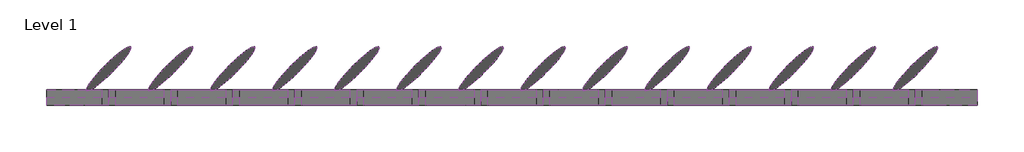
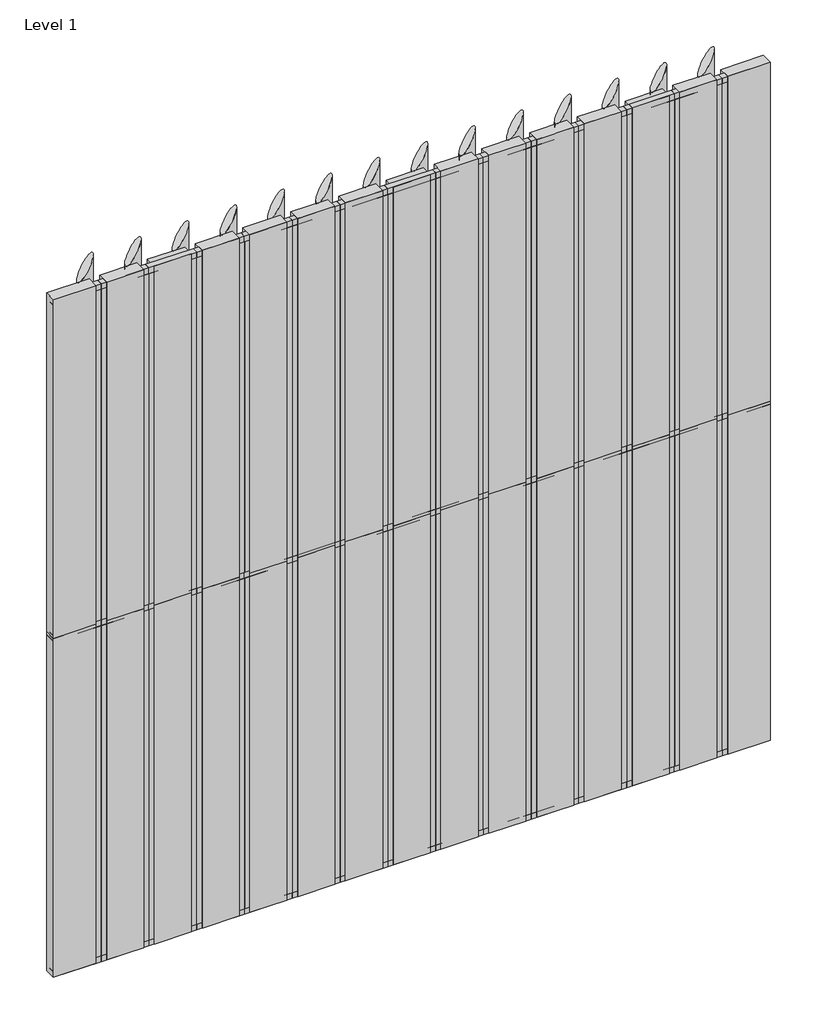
# One storey: 73 members, 60 plates.
"""IFC4 building model written with IfcOpenShell, lengths in millimetres."""

from ifc_helpers import new_model, si_unit, origin, place, context, project, spatial, transform, mapped, element, save
from components import rectangular_mullion_d3fee28a, rectangular_mullion_05cc9e47, rectangular_mullion_4a4034a1, rectangular_mullion_3c6e38bc, empty_system_panel_empty_f23573c3, empty_system_panel_empty_c4966de9, empty_system_panel_empty_361e841d

model = new_model("IFC4")

# Units and contexts
model_context = context("Model", 3, world=origin())
ifc_project = project(units=[si_unit("LENGTHUNIT", "METRE", prefix="MILLI")], contexts=[model_context])

# Site, building, storey
site = spatial("IfcSite", under=ifc_project)
building = spatial("IfcBuilding", under=site)
storey = spatial("IfcBuildingStorey", under=building, Name="Level 1", Elevation=0.0)

# Members
placement = place(None, origin())
rectangular_mullion_shape = rectangular_mullion_d3fee28a(model_context)
element("IfcMember", 1, ObjectType="Rectangular Mullion : RSen_21_CWM_blade - 400 ellips - 45°_gen_duco projects", at=placement, inside=storey, context=model_context, shape_type="MappedRepresentation", body=[
    mapped(rectangular_mullion_shape, transform((5600.0, 3000.0, 0.0), x_axis=(-1.0, 0.0, 0.0), y_axis=(0.0, 1.0, 0.0), z_axis=(0.0, 0.0, -1.0))),
])
element("IfcMember", 2, ObjectType="Rectangular Mullion : RSen_21_CWM_blade - 400 ellips - 45°_gen_duco projects", at=placement, inside=storey, context=model_context, shape_type="MappedRepresentation", body=[
    mapped(rectangular_mullion_shape, transform((5200.0, 3000.0, 0.0), x_axis=(-1.0, 0.0, 0.0), y_axis=(0.0, 1.0, 0.0), z_axis=(0.0, 0.0, -1.0))),
])
element("IfcMember", 3, ObjectType="Rectangular Mullion : RSen_21_CWM_blade - 400 ellips - 45°_gen_duco projects", at=placement, inside=storey, context=model_context, shape_type="MappedRepresentation", body=[
    mapped(rectangular_mullion_shape, transform((4800.0, 3000.0, 0.0), x_axis=(-1.0, 0.0, 0.0), y_axis=(0.0, 1.0, 0.0), z_axis=(0.0, 0.0, -1.0))),
])
element("IfcMember", 4, ObjectType="Rectangular Mullion : RSen_21_CWM_blade - 400 ellips - 45°_gen_duco projects", at=placement, inside=storey, context=model_context, shape_type="MappedRepresentation", body=[
    mapped(rectangular_mullion_shape, transform((4400.0, 3000.0, 0.0), x_axis=(-1.0, 0.0, 0.0), y_axis=(0.0, 1.0, 0.0), z_axis=(0.0, 0.0, -1.0))),
])
element("IfcMember", 5, ObjectType="Rectangular Mullion : RSen_21_CWM_blade - 400 ellips - 45°_gen_duco projects", at=placement, inside=storey, context=model_context, shape_type="MappedRepresentation", body=[
    mapped(rectangular_mullion_shape, transform((4000.0, 3000.0, 0.0), x_axis=(-1.0, 0.0, 0.0), y_axis=(0.0, 1.0, 0.0), z_axis=(0.0, 0.0, -1.0))),
])
element("IfcMember", 6, ObjectType="Rectangular Mullion : RSen_21_CWM_blade - 400 ellips - 45°_gen_duco projects", at=placement, inside=storey, context=model_context, shape_type="MappedRepresentation", body=[
    mapped(rectangular_mullion_shape, transform((3600.0, 3000.0, 0.0), x_axis=(-1.0, 0.0, 0.0), y_axis=(0.0, 1.0, 0.0), z_axis=(0.0, 0.0, -1.0))),
])
element("IfcMember", 7, ObjectType="Rectangular Mullion : RSen_21_CWM_blade - 400 ellips - 45°_gen_duco projects", at=placement, inside=storey, context=model_context, shape_type="MappedRepresentation", body=[
    mapped(rectangular_mullion_shape, transform((3200.0, 3000.0, 0.0), x_axis=(-1.0, 0.0, 0.0), y_axis=(0.0, 1.0, 0.0), z_axis=(0.0, 0.0, -1.0))),
])
element("IfcMember", 8, ObjectType="Rectangular Mullion : RSen_21_CWM_blade - 400 ellips - 45°_gen_duco projects", at=placement, inside=storey, context=model_context, shape_type="MappedRepresentation", body=[
    mapped(rectangular_mullion_shape, transform((2800.0, 3000.0, 0.0), x_axis=(-1.0, 0.0, 0.0), y_axis=(0.0, 1.0, 0.0), z_axis=(0.0, 0.0, -1.0))),
])
element("IfcMember", 9, ObjectType="Rectangular Mullion : RSen_21_CWM_blade - 400 ellips - 45°_gen_duco projects", at=placement, inside=storey, context=model_context, shape_type="MappedRepresentation", body=[
    mapped(rectangular_mullion_shape, transform((2400.0, 3000.0, 0.0), x_axis=(-1.0, 0.0, 0.0), y_axis=(0.0, 1.0, 0.0), z_axis=(0.0, 0.0, -1.0))),
])
element("IfcMember", 10, ObjectType="Rectangular Mullion : RSen_21_CWM_blade - 400 ellips - 45°_gen_duco projects", at=placement, inside=storey, context=model_context, shape_type="MappedRepresentation", body=[
    mapped(rectangular_mullion_shape, transform((2000.0, 3000.0, 0.0), x_axis=(-1.0, 0.0, 0.0), y_axis=(0.0, 1.0, 0.0), z_axis=(0.0, 0.0, -1.0))),
])
element("IfcMember", 11, ObjectType="Rectangular Mullion : RSen_21_CWM_blade - 400 ellips - 45°_gen_duco projects", at=placement, inside=storey, context=model_context, shape_type="MappedRepresentation", body=[
    mapped(rectangular_mullion_shape, transform((1600.0, 3000.0, 0.0), x_axis=(-1.0, 0.0, 0.0), y_axis=(0.0, 1.0, 0.0), z_axis=(0.0, 0.0, -1.0))),
])
element("IfcMember", 12, ObjectType="Rectangular Mullion : RSen_21_CWM_blade - 400 ellips - 45°_gen_duco projects", at=placement, inside=storey, context=model_context, shape_type="MappedRepresentation", body=[
    mapped(rectangular_mullion_shape, transform((1200.0, 3000.0, 0.0), x_axis=(-1.0, 0.0, 0.0), y_axis=(0.0, 1.0, 0.0), z_axis=(0.0, 0.0, -1.0))),
])
element("IfcMember", 13, ObjectType="Rectangular Mullion : RSen_21_CWM_blade - 400 ellips - 45°_gen_duco projects", at=placement, inside=storey, context=model_context, shape_type="MappedRepresentation", body=[
    mapped(rectangular_mullion_shape, transform((800.0, 3000.0, 0.0), x_axis=(-1.0, 0.0, 0.0), y_axis=(0.0, 1.0, 0.0), z_axis=(0.0, 0.0, -1.0))),
])
element("IfcMember", 14, ObjectType="Rectangular Mullion : RSen_21_CWM_blade - 400 ellips - 45°_gen_duco projects", at=placement, inside=storey, context=model_context, shape_type="MappedRepresentation", body=[
    mapped(rectangular_mullion_shape, transform((400.0, 3000.0, 0.0), x_axis=(-1.0, 0.0, 0.0), y_axis=(0.0, 1.0, 0.0), z_axis=(0.0, 0.0, -1.0))),
])
element("IfcMember", 15, ObjectType="Rectangular Mullion : RSen_21_CWM_blade - 400 ellips - 45°_gen_duco projects", at=placement, inside=storey, context=model_context, shape_type="MappedRepresentation", body=[
    mapped(rectangular_mullion_shape, transform((5600.0, 3000.0, 3000.0), x_axis=(-1.0, 0.0, 0.0), y_axis=(0.0, 1.0, 0.0), z_axis=(0.0, 0.0, -1.0))),
])
element("IfcMember", 16, ObjectType="Rectangular Mullion : RSen_21_CWM_blade - 400 ellips - 45°_gen_duco projects", at=placement, inside=storey, context=model_context, shape_type="MappedRepresentation", body=[
    mapped(rectangular_mullion_shape, transform((5200.0, 3000.0, 3000.0), x_axis=(-1.0, 0.0, 0.0), y_axis=(0.0, 1.0, 0.0), z_axis=(0.0, 0.0, -1.0))),
])
element("IfcMember", 17, ObjectType="Rectangular Mullion : RSen_21_CWM_blade - 400 ellips - 45°_gen_duco projects", at=placement, inside=storey, context=model_context, shape_type="MappedRepresentation", body=[
    mapped(rectangular_mullion_shape, transform((4800.0, 3000.0, 3000.0), x_axis=(-1.0, 0.0, 0.0), y_axis=(0.0, 1.0, 0.0), z_axis=(0.0, 0.0, -1.0))),
])
element("IfcMember", 18, ObjectType="Rectangular Mullion : RSen_21_CWM_blade - 400 ellips - 45°_gen_duco projects", at=placement, inside=storey, context=model_context, shape_type="MappedRepresentation", body=[
    mapped(rectangular_mullion_shape, transform((4400.0, 3000.0, 3000.0), x_axis=(-1.0, 0.0, 0.0), y_axis=(0.0, 1.0, 0.0), z_axis=(0.0, 0.0, -1.0))),
])
element("IfcMember", 19, ObjectType="Rectangular Mullion : RSen_21_CWM_blade - 400 ellips - 45°_gen_duco projects", at=placement, inside=storey, context=model_context, shape_type="MappedRepresentation", body=[
    mapped(rectangular_mullion_shape, transform((4000.0, 3000.0, 3000.0), x_axis=(-1.0, 0.0, 0.0), y_axis=(0.0, 1.0, 0.0), z_axis=(0.0, 0.0, -1.0))),
])
element("IfcMember", 20, ObjectType="Rectangular Mullion : RSen_21_CWM_blade - 400 ellips - 45°_gen_duco projects", at=placement, inside=storey, context=model_context, shape_type="MappedRepresentation", body=[
    mapped(rectangular_mullion_shape, transform((3600.0, 3000.0, 3000.0), x_axis=(-1.0, 0.0, 0.0), y_axis=(0.0, 1.0, 0.0), z_axis=(0.0, 0.0, -1.0))),
])
element("IfcMember", 21, ObjectType="Rectangular Mullion : RSen_21_CWM_blade - 400 ellips - 45°_gen_duco projects", at=placement, inside=storey, context=model_context, shape_type="MappedRepresentation", body=[
    mapped(rectangular_mullion_shape, transform((3200.0, 3000.0, 3000.0), x_axis=(-1.0, 0.0, 0.0), y_axis=(0.0, 1.0, 0.0), z_axis=(0.0, 0.0, -1.0))),
])
element("IfcMember", 22, ObjectType="Rectangular Mullion : RSen_21_CWM_blade - 400 ellips - 45°_gen_duco projects", at=placement, inside=storey, context=model_context, shape_type="MappedRepresentation", body=[
    mapped(rectangular_mullion_shape, transform((2800.0, 3000.0, 3000.0), x_axis=(-1.0, 0.0, 0.0), y_axis=(0.0, 1.0, 0.0), z_axis=(0.0, 0.0, -1.0))),
])
element("IfcMember", 23, ObjectType="Rectangular Mullion : RSen_21_CWM_blade - 400 ellips - 45°_gen_duco projects", at=placement, inside=storey, context=model_context, shape_type="MappedRepresentation", body=[
    mapped(rectangular_mullion_shape, transform((2400.0, 3000.0, 3000.0), x_axis=(-1.0, 0.0, 0.0), y_axis=(0.0, 1.0, 0.0), z_axis=(0.0, 0.0, -1.0))),
])
element("IfcMember", 24, ObjectType="Rectangular Mullion : RSen_21_CWM_blade - 400 ellips - 45°_gen_duco projects", at=placement, inside=storey, context=model_context, shape_type="MappedRepresentation", body=[
    mapped(rectangular_mullion_shape, transform((2000.0, 3000.0, 3000.0), x_axis=(-1.0, 0.0, 0.0), y_axis=(0.0, 1.0, 0.0), z_axis=(0.0, 0.0, -1.0))),
])
element("IfcMember", 25, ObjectType="Rectangular Mullion : RSen_21_CWM_blade - 400 ellips - 45°_gen_duco projects", at=placement, inside=storey, context=model_context, shape_type="MappedRepresentation", body=[
    mapped(rectangular_mullion_shape, transform((1600.0, 3000.0, 3000.0), x_axis=(-1.0, 0.0, 0.0), y_axis=(0.0, 1.0, 0.0), z_axis=(0.0, 0.0, -1.0))),
])
element("IfcMember", 26, ObjectType="Rectangular Mullion : RSen_21_CWM_blade - 400 ellips - 45°_gen_duco projects", at=placement, inside=storey, context=model_context, shape_type="MappedRepresentation", body=[
    mapped(rectangular_mullion_shape, transform((1200.0, 3000.0, 3000.0), x_axis=(-1.0, 0.0, 0.0), y_axis=(0.0, 1.0, 0.0), z_axis=(0.0, 0.0, -1.0))),
])
element("IfcMember", 27, ObjectType="Rectangular Mullion : RSen_21_CWM_blade - 400 ellips - 45°_gen_duco projects", at=placement, inside=storey, context=model_context, shape_type="MappedRepresentation", body=[
    mapped(rectangular_mullion_shape, transform((800.0, 3000.0, 3000.0), x_axis=(-1.0, 0.0, 0.0), y_axis=(0.0, 1.0, 0.0), z_axis=(0.0, 0.0, -1.0))),
])
element("IfcMember", 28, ObjectType="Rectangular Mullion : RSen_21_CWM_blade - 400 ellips - 45°_gen_duco projects", at=placement, inside=storey, context=model_context, shape_type="MappedRepresentation", body=[
    mapped(rectangular_mullion_shape, transform((400.0, 3000.0, 3000.0), x_axis=(-1.0, 0.0, 0.0), y_axis=(0.0, 1.0, 0.0), z_axis=(0.0, 0.0, -1.0))),
])
rectangular_mullion_2_shape = rectangular_mullion_05cc9e47(model_context)
element("IfcMember", 29, ObjectType="Rectangular Mullion : RSen_21_CWM_support profile 50x50 - left_gen_duco projects", at=placement, inside=storey, context=model_context, shape_type="MappedRepresentation", body=[
    mapped(rectangular_mullion_2_shape, transform((0.0, 3000.0, 6000.0), x_axis=(0.0, 0.0, 1.0), y_axis=(0.0, 1.0, 0.0), z_axis=(-1.0, 0.0, 0.0))),
])
rectangular_mullion_3_shape = rectangular_mullion_4a4034a1(model_context)
element("IfcMember", 30, ObjectType="Rectangular Mullion : RSen_21_CWM_support profile 50x50 - right_gen_duco projects", at=placement, inside=storey, context=model_context, shape_type="MappedRepresentation", body=[
    mapped(rectangular_mullion_3_shape, transform((6000.0, 3000.0, 0.0), x_axis=(0.0, 0.0, -1.0), y_axis=(0.0, 1.0, 0.0), z_axis=(1.0, 0.0, 0.0))),
])
element("IfcMember", 31, ObjectType="Rectangular Mullion : RSen_21_CWM_support profile 50x50 - left_gen_duco projects", at=placement, inside=storey, context=model_context, shape_type="MappedRepresentation", body=[
    mapped(rectangular_mullion_2_shape, transform((5600.0, 3000.0, 6000.0), x_axis=(0.0, 0.0, 1.0), y_axis=(0.0, 1.0, 0.0), z_axis=(-1.0, 0.0, 0.0))),
])
element("IfcMember", 32, ObjectType="Rectangular Mullion : RSen_21_CWM_support profile 50x50 - left_gen_duco projects", at=placement, inside=storey, context=model_context, shape_type="MappedRepresentation", body=[
    mapped(rectangular_mullion_2_shape, transform((5200.0, 3000.0, 6000.0), x_axis=(0.0, 0.0, 1.0), y_axis=(0.0, 1.0, 0.0), z_axis=(-1.0, 0.0, 0.0))),
])
element("IfcMember", 33, ObjectType="Rectangular Mullion : RSen_21_CWM_support profile 50x50 - left_gen_duco projects", at=placement, inside=storey, context=model_context, shape_type="MappedRepresentation", body=[
    mapped(rectangular_mullion_2_shape, transform((4800.0, 3000.0, 6000.0), x_axis=(0.0, 0.0, 1.0), y_axis=(0.0, 1.0, 0.0), z_axis=(-1.0, 0.0, 0.0))),
])
element("IfcMember", 34, ObjectType="Rectangular Mullion : RSen_21_CWM_support profile 50x50 - left_gen_duco projects", at=placement, inside=storey, context=model_context, shape_type="MappedRepresentation", body=[
    mapped(rectangular_mullion_2_shape, transform((4400.0, 3000.0, 6000.0), x_axis=(0.0, 0.0, 1.0), y_axis=(0.0, 1.0, 0.0), z_axis=(-1.0, 0.0, 0.0))),
])
element("IfcMember", 35, ObjectType="Rectangular Mullion : RSen_21_CWM_support profile 50x50 - left_gen_duco projects", at=placement, inside=storey, context=model_context, shape_type="MappedRepresentation", body=[
    mapped(rectangular_mullion_2_shape, transform((4000.0, 3000.0, 6000.0), x_axis=(0.0, 0.0, 1.0), y_axis=(0.0, 1.0, 0.0), z_axis=(-1.0, 0.0, 0.0))),
])
element("IfcMember", 36, ObjectType="Rectangular Mullion : RSen_21_CWM_support profile 50x50 - left_gen_duco projects", at=placement, inside=storey, context=model_context, shape_type="MappedRepresentation", body=[
    mapped(rectangular_mullion_2_shape, transform((3600.0, 3000.0, 6000.0), x_axis=(0.0, 0.0, 1.0), y_axis=(0.0, 1.0, 0.0), z_axis=(-1.0, 0.0, 0.0))),
])
element("IfcMember", 37, ObjectType="Rectangular Mullion : RSen_21_CWM_support profile 50x50 - left_gen_duco projects", at=placement, inside=storey, context=model_context, shape_type="MappedRepresentation", body=[
    mapped(rectangular_mullion_2_shape, transform((3200.0, 3000.0, 6000.0), x_axis=(0.0, 0.0, 1.0), y_axis=(0.0, 1.0, 0.0), z_axis=(-1.0, 0.0, 0.0))),
])
element("IfcMember", 38, ObjectType="Rectangular Mullion : RSen_21_CWM_support profile 50x50 - left_gen_duco projects", at=placement, inside=storey, context=model_context, shape_type="MappedRepresentation", body=[
    mapped(rectangular_mullion_2_shape, transform((2800.0, 3000.0, 6000.0), x_axis=(0.0, 0.0, 1.0), y_axis=(0.0, 1.0, 0.0), z_axis=(-1.0, 0.0, 0.0))),
])
element("IfcMember", 39, ObjectType="Rectangular Mullion : RSen_21_CWM_support profile 50x50 - left_gen_duco projects", at=placement, inside=storey, context=model_context, shape_type="MappedRepresentation", body=[
    mapped(rectangular_mullion_2_shape, transform((2400.0, 3000.0, 6000.0), x_axis=(0.0, 0.0, 1.0), y_axis=(0.0, 1.0, 0.0), z_axis=(-1.0, 0.0, 0.0))),
])
element("IfcMember", 40, ObjectType="Rectangular Mullion : RSen_21_CWM_support profile 50x50 - left_gen_duco projects", at=placement, inside=storey, context=model_context, shape_type="MappedRepresentation", body=[
    mapped(rectangular_mullion_2_shape, transform((2000.0, 3000.0, 6000.0), x_axis=(0.0, 0.0, 1.0), y_axis=(0.0, 1.0, 0.0), z_axis=(-1.0, 0.0, 0.0))),
])
element("IfcMember", 41, ObjectType="Rectangular Mullion : RSen_21_CWM_support profile 50x50 - left_gen_duco projects", at=placement, inside=storey, context=model_context, shape_type="MappedRepresentation", body=[
    mapped(rectangular_mullion_2_shape, transform((1600.0, 3000.0, 6000.0), x_axis=(0.0, 0.0, 1.0), y_axis=(0.0, 1.0, 0.0), z_axis=(-1.0, 0.0, 0.0))),
])
element("IfcMember", 42, ObjectType="Rectangular Mullion : RSen_21_CWM_support profile 50x50 - left_gen_duco projects", at=placement, inside=storey, context=model_context, shape_type="MappedRepresentation", body=[
    mapped(rectangular_mullion_2_shape, transform((1200.0, 3000.0, 6000.0), x_axis=(0.0, 0.0, 1.0), y_axis=(0.0, 1.0, 0.0), z_axis=(-1.0, 0.0, 0.0))),
])
element("IfcMember", 43, ObjectType="Rectangular Mullion : RSen_21_CWM_support profile 50x50 - left_gen_duco projects", at=placement, inside=storey, context=model_context, shape_type="MappedRepresentation", body=[
    mapped(rectangular_mullion_2_shape, transform((800.0, 3000.0, 6000.0), x_axis=(0.0, 0.0, 1.0), y_axis=(0.0, 1.0, 0.0), z_axis=(-1.0, 0.0, 0.0))),
])
element("IfcMember", 44, ObjectType="Rectangular Mullion : RSen_21_CWM_support profile 50x50 - left_gen_duco projects", at=placement, inside=storey, context=model_context, shape_type="MappedRepresentation", body=[
    mapped(rectangular_mullion_2_shape, transform((400.0, 3000.0, 6000.0), x_axis=(0.0, 0.0, 1.0), y_axis=(0.0, 1.0, 0.0), z_axis=(-1.0, 0.0, 0.0))),
])
element("IfcMember", 45, ObjectType="Rectangular Mullion : RSen_21_CWM_support profile 50x50 - right_gen_duco projects", at=placement, inside=storey, context=model_context, shape_type="MappedRepresentation", body=[
    mapped(rectangular_mullion_3_shape, transform((5600.0, 3000.0, 0.0), x_axis=(0.0, 0.0, -1.0), y_axis=(0.0, 1.0, 0.0), z_axis=(1.0, 0.0, 0.0))),
])
element("IfcMember", 46, ObjectType="Rectangular Mullion : RSen_21_CWM_support profile 50x50 - right_gen_duco projects", at=placement, inside=storey, context=model_context, shape_type="MappedRepresentation", body=[
    mapped(rectangular_mullion_3_shape, transform((5200.0, 3000.0, 0.0), x_axis=(0.0, 0.0, -1.0), y_axis=(0.0, 1.0, 0.0), z_axis=(1.0, 0.0, 0.0))),
])
element("IfcMember", 47, ObjectType="Rectangular Mullion : RSen_21_CWM_support profile 50x50 - right_gen_duco projects", at=placement, inside=storey, context=model_context, shape_type="MappedRepresentation", body=[
    mapped(rectangular_mullion_3_shape, transform((4800.0, 3000.0, 0.0), x_axis=(0.0, 0.0, -1.0), y_axis=(0.0, 1.0, 0.0), z_axis=(1.0, 0.0, 0.0))),
])
element("IfcMember", 48, ObjectType="Rectangular Mullion : RSen_21_CWM_support profile 50x50 - right_gen_duco projects", at=placement, inside=storey, context=model_context, shape_type="MappedRepresentation", body=[
    mapped(rectangular_mullion_3_shape, transform((4400.0, 3000.0, 0.0), x_axis=(0.0, 0.0, -1.0), y_axis=(0.0, 1.0, 0.0), z_axis=(1.0, 0.0, 0.0))),
])
element("IfcMember", 49, ObjectType="Rectangular Mullion : RSen_21_CWM_support profile 50x50 - right_gen_duco projects", at=placement, inside=storey, context=model_context, shape_type="MappedRepresentation", body=[
    mapped(rectangular_mullion_3_shape, transform((4000.0, 3000.0, 0.0), x_axis=(0.0, 0.0, -1.0), y_axis=(0.0, 1.0, 0.0), z_axis=(1.0, 0.0, 0.0))),
])
element("IfcMember", 50, ObjectType="Rectangular Mullion : RSen_21_CWM_support profile 50x50 - right_gen_duco projects", at=placement, inside=storey, context=model_context, shape_type="MappedRepresentation", body=[
    mapped(rectangular_mullion_3_shape, transform((3600.0, 3000.0, 0.0), x_axis=(0.0, 0.0, -1.0), y_axis=(0.0, 1.0, 0.0), z_axis=(1.0, 0.0, 0.0))),
])
element("IfcMember", 51, ObjectType="Rectangular Mullion : RSen_21_CWM_support profile 50x50 - right_gen_duco projects", at=placement, inside=storey, context=model_context, shape_type="MappedRepresentation", body=[
    mapped(rectangular_mullion_3_shape, transform((3200.0, 3000.0, 0.0), x_axis=(0.0, 0.0, -1.0), y_axis=(0.0, 1.0, 0.0), z_axis=(1.0, 0.0, 0.0))),
])
element("IfcMember", 52, ObjectType="Rectangular Mullion : RSen_21_CWM_support profile 50x50 - right_gen_duco projects", at=placement, inside=storey, context=model_context, shape_type="MappedRepresentation", body=[
    mapped(rectangular_mullion_3_shape, transform((2800.0, 3000.0, 0.0), x_axis=(0.0, 0.0, -1.0), y_axis=(0.0, 1.0, 0.0), z_axis=(1.0, 0.0, 0.0))),
])
element("IfcMember", 53, ObjectType="Rectangular Mullion : RSen_21_CWM_support profile 50x50 - right_gen_duco projects", at=placement, inside=storey, context=model_context, shape_type="MappedRepresentation", body=[
    mapped(rectangular_mullion_3_shape, transform((2400.0, 3000.0, 0.0), x_axis=(0.0, 0.0, -1.0), y_axis=(0.0, 1.0, 0.0), z_axis=(1.0, 0.0, 0.0))),
])
element("IfcMember", 54, ObjectType="Rectangular Mullion : RSen_21_CWM_support profile 50x50 - right_gen_duco projects", at=placement, inside=storey, context=model_context, shape_type="MappedRepresentation", body=[
    mapped(rectangular_mullion_3_shape, transform((2000.0, 3000.0, 0.0), x_axis=(0.0, 0.0, -1.0), y_axis=(0.0, 1.0, 0.0), z_axis=(1.0, 0.0, 0.0))),
])
element("IfcMember", 55, ObjectType="Rectangular Mullion : RSen_21_CWM_support profile 50x50 - right_gen_duco projects", at=placement, inside=storey, context=model_context, shape_type="MappedRepresentation", body=[
    mapped(rectangular_mullion_3_shape, transform((1600.0, 3000.0, 0.0), x_axis=(0.0, 0.0, -1.0), y_axis=(0.0, 1.0, 0.0), z_axis=(1.0, 0.0, 0.0))),
])
element("IfcMember", 56, ObjectType="Rectangular Mullion : RSen_21_CWM_support profile 50x50 - right_gen_duco projects", at=placement, inside=storey, context=model_context, shape_type="MappedRepresentation", body=[
    mapped(rectangular_mullion_3_shape, transform((1200.0, 3000.0, 0.0), x_axis=(0.0, 0.0, -1.0), y_axis=(0.0, 1.0, 0.0), z_axis=(1.0, 0.0, 0.0))),
])
element("IfcMember", 57, ObjectType="Rectangular Mullion : RSen_21_CWM_support profile 50x50 - right_gen_duco projects", at=placement, inside=storey, context=model_context, shape_type="MappedRepresentation", body=[
    mapped(rectangular_mullion_3_shape, transform((800.0, 3000.0, 0.0), x_axis=(0.0, 0.0, -1.0), y_axis=(0.0, 1.0, 0.0), z_axis=(1.0, 0.0, 0.0))),
])
element("IfcMember", 58, ObjectType="Rectangular Mullion : RSen_21_CWM_support profile 50x50 - right_gen_duco projects", at=placement, inside=storey, context=model_context, shape_type="MappedRepresentation", body=[
    mapped(rectangular_mullion_3_shape, transform((400.0, 3000.0, 0.0), x_axis=(0.0, 0.0, -1.0), y_axis=(0.0, 1.0, 0.0), z_axis=(1.0, 0.0, 0.0))),
])
rectangular_mullion_4_shape = rectangular_mullion_3c6e38bc(model_context)
element("IfcMember", 59, ObjectType="Rectangular Mullion : RSen_21_CWM_support profile 50x50_gen_duco projects", at=placement, inside=storey, context=model_context, shape_type="MappedRepresentation", body=[
    mapped(rectangular_mullion_4_shape, transform((5600.0, 3000.0, 3000.0), x_axis=(0.0, 0.0, 1.0), y_axis=(0.0, 1.0, 0.0), z_axis=(-1.0, 0.0, 0.0))),
])
element("IfcMember", 60, ObjectType="Rectangular Mullion : RSen_21_CWM_support profile 50x50_gen_duco projects", at=placement, inside=storey, context=model_context, shape_type="MappedRepresentation", body=[
    mapped(rectangular_mullion_4_shape, transform((5200.0, 3000.0, 3000.0), x_axis=(0.0, 0.0, 1.0), y_axis=(0.0, 1.0, 0.0), z_axis=(-1.0, 0.0, 0.0))),
])
element("IfcMember", 61, ObjectType="Rectangular Mullion : RSen_21_CWM_support profile 50x50_gen_duco projects", at=placement, inside=storey, context=model_context, shape_type="MappedRepresentation", body=[
    mapped(rectangular_mullion_4_shape, transform((4800.0, 3000.0, 3000.0), x_axis=(0.0, 0.0, 1.0), y_axis=(0.0, 1.0, 0.0), z_axis=(-1.0, 0.0, 0.0))),
])
element("IfcMember", 62, ObjectType="Rectangular Mullion : RSen_21_CWM_support profile 50x50_gen_duco projects", at=placement, inside=storey, context=model_context, shape_type="MappedRepresentation", body=[
    mapped(rectangular_mullion_4_shape, transform((4400.0, 3000.0, 3000.0), x_axis=(0.0, 0.0, 1.0), y_axis=(0.0, 1.0, 0.0), z_axis=(-1.0, 0.0, 0.0))),
])
element("IfcMember", 63, ObjectType="Rectangular Mullion : RSen_21_CWM_support profile 50x50_gen_duco projects", at=placement, inside=storey, context=model_context, shape_type="MappedRepresentation", body=[
    mapped(rectangular_mullion_4_shape, transform((4000.0, 3000.0, 3000.0), x_axis=(0.0, 0.0, 1.0), y_axis=(0.0, 1.0, 0.0), z_axis=(-1.0, 0.0, 0.0))),
])
element("IfcMember", 64, ObjectType="Rectangular Mullion : RSen_21_CWM_support profile 50x50_gen_duco projects", at=placement, inside=storey, context=model_context, shape_type="MappedRepresentation", body=[
    mapped(rectangular_mullion_4_shape, transform((3600.0, 3000.0, 3000.0), x_axis=(0.0, 0.0, 1.0), y_axis=(0.0, 1.0, 0.0), z_axis=(-1.0, 0.0, 0.0))),
])
element("IfcMember", 65, ObjectType="Rectangular Mullion : RSen_21_CWM_support profile 50x50_gen_duco projects", at=placement, inside=storey, context=model_context, shape_type="MappedRepresentation", body=[
    mapped(rectangular_mullion_4_shape, transform((3200.0, 3000.0, 3000.0), x_axis=(0.0, 0.0, 1.0), y_axis=(0.0, 1.0, 0.0), z_axis=(-1.0, 0.0, 0.0))),
])
element("IfcMember", 66, ObjectType="Rectangular Mullion : RSen_21_CWM_support profile 50x50_gen_duco projects", at=placement, inside=storey, context=model_context, shape_type="MappedRepresentation", body=[
    mapped(rectangular_mullion_4_shape, transform((2800.0, 3000.0, 3000.0), x_axis=(0.0, 0.0, 1.0), y_axis=(0.0, 1.0, 0.0), z_axis=(-1.0, 0.0, 0.0))),
])
element("IfcMember", 67, ObjectType="Rectangular Mullion : RSen_21_CWM_support profile 50x50_gen_duco projects", at=placement, inside=storey, context=model_context, shape_type="MappedRepresentation", body=[
    mapped(rectangular_mullion_4_shape, transform((2400.0, 3000.0, 3000.0), x_axis=(0.0, 0.0, 1.0), y_axis=(0.0, 1.0, 0.0), z_axis=(-1.0, 0.0, 0.0))),
])
element("IfcMember", 68, ObjectType="Rectangular Mullion : RSen_21_CWM_support profile 50x50_gen_duco projects", at=placement, inside=storey, context=model_context, shape_type="MappedRepresentation", body=[
    mapped(rectangular_mullion_4_shape, transform((2000.0, 3000.0, 3000.0), x_axis=(0.0, 0.0, 1.0), y_axis=(0.0, 1.0, 0.0), z_axis=(-1.0, 0.0, 0.0))),
])
element("IfcMember", 69, ObjectType="Rectangular Mullion : RSen_21_CWM_support profile 50x50_gen_duco projects", at=placement, inside=storey, context=model_context, shape_type="MappedRepresentation", body=[
    mapped(rectangular_mullion_4_shape, transform((1600.0, 3000.0, 3000.0), x_axis=(0.0, 0.0, 1.0), y_axis=(0.0, 1.0, 0.0), z_axis=(-1.0, 0.0, 0.0))),
])
element("IfcMember", 70, ObjectType="Rectangular Mullion : RSen_21_CWM_support profile 50x50_gen_duco projects", at=placement, inside=storey, context=model_context, shape_type="MappedRepresentation", body=[
    mapped(rectangular_mullion_4_shape, transform((1200.0, 3000.0, 3000.0), x_axis=(0.0, 0.0, 1.0), y_axis=(0.0, 1.0, 0.0), z_axis=(-1.0, 0.0, 0.0))),
])
element("IfcMember", 71, ObjectType="Rectangular Mullion : RSen_21_CWM_support profile 50x50_gen_duco projects", at=placement, inside=storey, context=model_context, shape_type="MappedRepresentation", body=[
    mapped(rectangular_mullion_4_shape, transform((800.0, 3000.0, 3000.0), x_axis=(0.0, 0.0, 1.0), y_axis=(0.0, 1.0, 0.0), z_axis=(-1.0, 0.0, 0.0))),
])
element("IfcMember", 72, ObjectType="Rectangular Mullion : RSen_21_CWM_support profile 50x50_gen_duco projects", at=placement, inside=storey, context=model_context, shape_type="MappedRepresentation", body=[
    mapped(rectangular_mullion_4_shape, transform((400.0, 3000.0, 3000.0), x_axis=(0.0, 0.0, 1.0), y_axis=(0.0, 1.0, 0.0), z_axis=(-1.0, 0.0, 0.0))),
])
element("IfcMember", 73, ObjectType="Rectangular Mullion : RSen_21_CWM_support profile 50x50_gen_duco projects", at=placement, inside=storey, context=model_context, shape_type="MappedRepresentation", body=[
    mapped(rectangular_mullion_4_shape, transform((0.0, 3000.0, 3000.0), x_axis=(0.0, 0.0, 1.0), y_axis=(0.0, 1.0, 0.0), z_axis=(-1.0, 0.0, 0.0))),
])

# Plates
empty_system_panel_empty_shape = empty_system_panel_empty_f23573c3(model_context)
element("IfcPlate", 74, ObjectType="Empty System Panel : Empty", at=placement, inside=storey, context=model_context, shape_type="MappedRepresentation", body=[
    mapped(empty_system_panel_empty_shape, transform((5822.2738636, 3000.0, 0.0), x_axis=(-1.0, 0.0, 0.0), y_axis=(0.0, -1.0, 0.0), z_axis=(0.0, 0.0, 1.0))),
])
element("IfcPlate", 75, ObjectType="Empty System Panel : Empty", at=placement, inside=storey, context=model_context, shape_type="MappedRepresentation", body=[
    mapped(empty_system_panel_empty_shape, transform((177.7261364, 3000.0, 0.0), x_axis=(-1.0, 0.0, 0.0), y_axis=(0.0, -1.0, 0.0), z_axis=(0.0, 0.0, 1.0))),
])
element("IfcPlate", 76, ObjectType="Empty System Panel : Empty", at=placement, inside=storey, context=model_context, shape_type="MappedRepresentation", body=[
    mapped(empty_system_panel_empty_shape, transform((5822.2738636, 3000.0, 3000.0), x_axis=(-1.0, 0.0, 0.0), y_axis=(0.0, -1.0, 0.0), z_axis=(0.0, 0.0, 1.0))),
])
element("IfcPlate", 77, ObjectType="Empty System Panel : Empty", at=placement, inside=storey, context=model_context, shape_type="MappedRepresentation", body=[
    mapped(empty_system_panel_empty_shape, transform((177.7261364, 3000.0, 3000.0), x_axis=(-1.0, 0.0, 0.0), y_axis=(0.0, -1.0, 0.0), z_axis=(0.0, 0.0, 1.0))),
])
empty_system_panel_empty_2_shape = empty_system_panel_empty_c4966de9(model_context)
element("IfcPlate", 78, ObjectType="Empty System Panel : Empty", at=placement, inside=storey, context=model_context, shape_type="MappedRepresentation", body=[
    mapped(empty_system_panel_empty_2_shape, transform((5400.0, 3000.0, 0.0), x_axis=(-1.0, 0.0, 0.0), y_axis=(0.0, -1.0, 0.0), z_axis=(0.0, 0.0, 1.0))),
])
element("IfcPlate", 79, ObjectType="Empty System Panel : Empty", at=placement, inside=storey, context=model_context, shape_type="MappedRepresentation", body=[
    mapped(empty_system_panel_empty_2_shape, transform((5000.0, 3000.0, 0.0), x_axis=(-1.0, 0.0, 0.0), y_axis=(0.0, -1.0, 0.0), z_axis=(0.0, 0.0, 1.0))),
])
element("IfcPlate", 80, ObjectType="Empty System Panel : Empty", at=placement, inside=storey, context=model_context, shape_type="MappedRepresentation", body=[
    mapped(empty_system_panel_empty_2_shape, transform((4600.0, 3000.0, 0.0), x_axis=(-1.0, 0.0, 0.0), y_axis=(0.0, -1.0, 0.0), z_axis=(0.0, 0.0, 1.0))),
])
element("IfcPlate", 81, ObjectType="Empty System Panel : Empty", at=placement, inside=storey, context=model_context, shape_type="MappedRepresentation", body=[
    mapped(empty_system_panel_empty_2_shape, transform((4200.0, 3000.0, 0.0), x_axis=(-1.0, 0.0, 0.0), y_axis=(0.0, -1.0, 0.0), z_axis=(0.0, 0.0, 1.0))),
])
element("IfcPlate", 82, ObjectType="Empty System Panel : Empty", at=placement, inside=storey, context=model_context, shape_type="MappedRepresentation", body=[
    mapped(empty_system_panel_empty_2_shape, transform((3800.0, 3000.0, 0.0), x_axis=(-1.0, 0.0, 0.0), y_axis=(0.0, -1.0, 0.0), z_axis=(0.0, 0.0, 1.0))),
])
element("IfcPlate", 83, ObjectType="Empty System Panel : Empty", at=placement, inside=storey, context=model_context, shape_type="MappedRepresentation", body=[
    mapped(empty_system_panel_empty_2_shape, transform((3400.0, 3000.0, 0.0), x_axis=(-1.0, 0.0, 0.0), y_axis=(0.0, -1.0, 0.0), z_axis=(0.0, 0.0, 1.0))),
])
element("IfcPlate", 84, ObjectType="Empty System Panel : Empty", at=placement, inside=storey, context=model_context, shape_type="MappedRepresentation", body=[
    mapped(empty_system_panel_empty_2_shape, transform((3000.0, 3000.0, 0.0), x_axis=(-1.0, 0.0, 0.0), y_axis=(0.0, -1.0, 0.0), z_axis=(0.0, 0.0, 1.0))),
])
element("IfcPlate", 85, ObjectType="Empty System Panel : Empty", at=placement, inside=storey, context=model_context, shape_type="MappedRepresentation", body=[
    mapped(empty_system_panel_empty_2_shape, transform((2600.0, 3000.0, 0.0), x_axis=(-1.0, 0.0, 0.0), y_axis=(0.0, -1.0, 0.0), z_axis=(0.0, 0.0, 1.0))),
])
element("IfcPlate", 86, ObjectType="Empty System Panel : Empty", at=placement, inside=storey, context=model_context, shape_type="MappedRepresentation", body=[
    mapped(empty_system_panel_empty_2_shape, transform((2200.0, 3000.0, 0.0), x_axis=(-1.0, 0.0, 0.0), y_axis=(0.0, -1.0, 0.0), z_axis=(0.0, 0.0, 1.0))),
])
element("IfcPlate", 87, ObjectType="Empty System Panel : Empty", at=placement, inside=storey, context=model_context, shape_type="MappedRepresentation", body=[
    mapped(empty_system_panel_empty_2_shape, transform((1800.0, 3000.0, 0.0), x_axis=(-1.0, 0.0, 0.0), y_axis=(0.0, -1.0, 0.0), z_axis=(0.0, 0.0, 1.0))),
])
element("IfcPlate", 88, ObjectType="Empty System Panel : Empty", at=placement, inside=storey, context=model_context, shape_type="MappedRepresentation", body=[
    mapped(empty_system_panel_empty_2_shape, transform((1400.0, 3000.0, 0.0), x_axis=(-1.0, 0.0, 0.0), y_axis=(0.0, -1.0, 0.0), z_axis=(0.0, 0.0, 1.0))),
])
element("IfcPlate", 89, ObjectType="Empty System Panel : Empty", at=placement, inside=storey, context=model_context, shape_type="MappedRepresentation", body=[
    mapped(empty_system_panel_empty_2_shape, transform((1000.0, 3000.0, 0.0), x_axis=(-1.0, 0.0, 0.0), y_axis=(0.0, -1.0, 0.0), z_axis=(0.0, 0.0, 1.0))),
])
element("IfcPlate", 90, ObjectType="Empty System Panel : Empty", at=placement, inside=storey, context=model_context, shape_type="MappedRepresentation", body=[
    mapped(empty_system_panel_empty_2_shape, transform((600.0, 3000.0, 0.0), x_axis=(-1.0, 0.0, 0.0), y_axis=(0.0, -1.0, 0.0), z_axis=(0.0, 0.0, 1.0))),
])
element("IfcPlate", 91, ObjectType="Empty System Panel : Empty", at=placement, inside=storey, context=model_context, shape_type="MappedRepresentation", body=[
    mapped(empty_system_panel_empty_2_shape, transform((5400.0, 3000.0, 3000.0), x_axis=(-1.0, 0.0, 0.0), y_axis=(0.0, -1.0, 0.0), z_axis=(0.0, 0.0, 1.0))),
])
element("IfcPlate", 92, ObjectType="Empty System Panel : Empty", at=placement, inside=storey, context=model_context, shape_type="MappedRepresentation", body=[
    mapped(empty_system_panel_empty_2_shape, transform((5000.0, 3000.0, 3000.0), x_axis=(-1.0, 0.0, 0.0), y_axis=(0.0, -1.0, 0.0), z_axis=(0.0, 0.0, 1.0))),
])
element("IfcPlate", 93, ObjectType="Empty System Panel : Empty", at=placement, inside=storey, context=model_context, shape_type="MappedRepresentation", body=[
    mapped(empty_system_panel_empty_2_shape, transform((4600.0, 3000.0, 3000.0), x_axis=(-1.0, 0.0, 0.0), y_axis=(0.0, -1.0, 0.0), z_axis=(0.0, 0.0, 1.0))),
])
element("IfcPlate", 94, ObjectType="Empty System Panel : Empty", at=placement, inside=storey, context=model_context, shape_type="MappedRepresentation", body=[
    mapped(empty_system_panel_empty_2_shape, transform((4200.0, 3000.0, 3000.0), x_axis=(-1.0, 0.0, 0.0), y_axis=(0.0, -1.0, 0.0), z_axis=(0.0, 0.0, 1.0))),
])
element("IfcPlate", 95, ObjectType="Empty System Panel : Empty", at=placement, inside=storey, context=model_context, shape_type="MappedRepresentation", body=[
    mapped(empty_system_panel_empty_2_shape, transform((3800.0, 3000.0, 3000.0), x_axis=(-1.0, 0.0, 0.0), y_axis=(0.0, -1.0, 0.0), z_axis=(0.0, 0.0, 1.0))),
])
element("IfcPlate", 96, ObjectType="Empty System Panel : Empty", at=placement, inside=storey, context=model_context, shape_type="MappedRepresentation", body=[
    mapped(empty_system_panel_empty_2_shape, transform((3400.0, 3000.0, 3000.0), x_axis=(-1.0, 0.0, 0.0), y_axis=(0.0, -1.0, 0.0), z_axis=(0.0, 0.0, 1.0))),
])
element("IfcPlate", 97, ObjectType="Empty System Panel : Empty", at=placement, inside=storey, context=model_context, shape_type="MappedRepresentation", body=[
    mapped(empty_system_panel_empty_2_shape, transform((3000.0, 3000.0, 3000.0), x_axis=(-1.0, 0.0, 0.0), y_axis=(0.0, -1.0, 0.0), z_axis=(0.0, 0.0, 1.0))),
])
element("IfcPlate", 98, ObjectType="Empty System Panel : Empty", at=placement, inside=storey, context=model_context, shape_type="MappedRepresentation", body=[
    mapped(empty_system_panel_empty_2_shape, transform((2600.0, 3000.0, 3000.0), x_axis=(-1.0, 0.0, 0.0), y_axis=(0.0, -1.0, 0.0), z_axis=(0.0, 0.0, 1.0))),
])
element("IfcPlate", 99, ObjectType="Empty System Panel : Empty", at=placement, inside=storey, context=model_context, shape_type="MappedRepresentation", body=[
    mapped(empty_system_panel_empty_2_shape, transform((2200.0, 3000.0, 3000.0), x_axis=(-1.0, 0.0, 0.0), y_axis=(0.0, -1.0, 0.0), z_axis=(0.0, 0.0, 1.0))),
])
element("IfcPlate", 100, ObjectType="Empty System Panel : Empty", at=placement, inside=storey, context=model_context, shape_type="MappedRepresentation", body=[
    mapped(empty_system_panel_empty_2_shape, transform((1800.0, 3000.0, 3000.0), x_axis=(-1.0, 0.0, 0.0), y_axis=(0.0, -1.0, 0.0), z_axis=(0.0, 0.0, 1.0))),
])
element("IfcPlate", 101, ObjectType="Empty System Panel : Empty", at=placement, inside=storey, context=model_context, shape_type="MappedRepresentation", body=[
    mapped(empty_system_panel_empty_2_shape, transform((1400.0, 3000.0, 3000.0), x_axis=(-1.0, 0.0, 0.0), y_axis=(0.0, -1.0, 0.0), z_axis=(0.0, 0.0, 1.0))),
])
element("IfcPlate", 102, ObjectType="Empty System Panel : Empty", at=placement, inside=storey, context=model_context, shape_type="MappedRepresentation", body=[
    mapped(empty_system_panel_empty_2_shape, transform((1000.0, 3000.0, 3000.0), x_axis=(-1.0, 0.0, 0.0), y_axis=(0.0, -1.0, 0.0), z_axis=(0.0, 0.0, 1.0))),
])
element("IfcPlate", 103, ObjectType="Empty System Panel : Empty", at=placement, inside=storey, context=model_context, shape_type="MappedRepresentation", body=[
    mapped(empty_system_panel_empty_2_shape, transform((600.0, 3000.0, 3000.0), x_axis=(-1.0, 0.0, 0.0), y_axis=(0.0, -1.0, 0.0), z_axis=(0.0, 0.0, 1.0))),
])
empty_system_panel_empty_3_shape = empty_system_panel_empty_361e841d(model_context)
element("IfcPlate", 104, ObjectType="Empty System Panel : Empty", at=placement, inside=storey, context=model_context, shape_type="MappedRepresentation", body=[
    mapped(empty_system_panel_empty_3_shape, transform((5800.0, 3000.0, 50.0), x_axis=(-1.0, 0.0, 0.0), y_axis=(0.0, -1.0, 0.0), z_axis=(0.0, 0.0, 1.0))),
])
element("IfcPlate", 105, ObjectType="Empty System Panel : Empty", at=placement, inside=storey, context=model_context, shape_type="MappedRepresentation", body=[
    mapped(empty_system_panel_empty_3_shape, transform((5400.0, 3000.0, 50.0), x_axis=(-1.0, 0.0, 0.0), y_axis=(0.0, -1.0, 0.0), z_axis=(0.0, 0.0, 1.0))),
])
element("IfcPlate", 106, ObjectType="Empty System Panel : Empty", at=placement, inside=storey, context=model_context, shape_type="MappedRepresentation", body=[
    mapped(empty_system_panel_empty_3_shape, transform((5000.0, 3000.0, 50.0), x_axis=(-1.0, 0.0, 0.0), y_axis=(0.0, -1.0, 0.0), z_axis=(0.0, 0.0, 1.0))),
])
element("IfcPlate", 107, ObjectType="Empty System Panel : Empty", at=placement, inside=storey, context=model_context, shape_type="MappedRepresentation", body=[
    mapped(empty_system_panel_empty_3_shape, transform((4600.0, 3000.0, 50.0), x_axis=(-1.0, 0.0, 0.0), y_axis=(0.0, -1.0, 0.0), z_axis=(0.0, 0.0, 1.0))),
])
element("IfcPlate", 108, ObjectType="Empty System Panel : Empty", at=placement, inside=storey, context=model_context, shape_type="MappedRepresentation", body=[
    mapped(empty_system_panel_empty_3_shape, transform((4200.0, 3000.0, 50.0), x_axis=(-1.0, 0.0, 0.0), y_axis=(0.0, -1.0, 0.0), z_axis=(0.0, 0.0, 1.0))),
])
element("IfcPlate", 109, ObjectType="Empty System Panel : Empty", at=placement, inside=storey, context=model_context, shape_type="MappedRepresentation", body=[
    mapped(empty_system_panel_empty_3_shape, transform((3800.0, 3000.0, 50.0), x_axis=(-1.0, 0.0, 0.0), y_axis=(0.0, -1.0, 0.0), z_axis=(0.0, 0.0, 1.0))),
])
element("IfcPlate", 110, ObjectType="Empty System Panel : Empty", at=placement, inside=storey, context=model_context, shape_type="MappedRepresentation", body=[
    mapped(empty_system_panel_empty_3_shape, transform((3400.0, 3000.0, 50.0), x_axis=(-1.0, 0.0, 0.0), y_axis=(0.0, -1.0, 0.0), z_axis=(0.0, 0.0, 1.0))),
])
element("IfcPlate", 111, ObjectType="Empty System Panel : Empty", at=placement, inside=storey, context=model_context, shape_type="MappedRepresentation", body=[
    mapped(empty_system_panel_empty_3_shape, transform((3000.0, 3000.0, 50.0), x_axis=(-1.0, 0.0, 0.0), y_axis=(0.0, -1.0, 0.0), z_axis=(0.0, 0.0, 1.0))),
])
element("IfcPlate", 112, ObjectType="Empty System Panel : Empty", at=placement, inside=storey, context=model_context, shape_type="MappedRepresentation", body=[
    mapped(empty_system_panel_empty_3_shape, transform((2600.0, 3000.0, 50.0), x_axis=(-1.0, 0.0, 0.0), y_axis=(0.0, -1.0, 0.0), z_axis=(0.0, 0.0, 1.0))),
])
element("IfcPlate", 113, ObjectType="Empty System Panel : Empty", at=placement, inside=storey, context=model_context, shape_type="MappedRepresentation", body=[
    mapped(empty_system_panel_empty_3_shape, transform((2200.0, 3000.0, 50.0), x_axis=(-1.0, 0.0, 0.0), y_axis=(0.0, -1.0, 0.0), z_axis=(0.0, 0.0, 1.0))),
])
element("IfcPlate", 114, ObjectType="Empty System Panel : Empty", at=placement, inside=storey, context=model_context, shape_type="MappedRepresentation", body=[
    mapped(empty_system_panel_empty_3_shape, transform((1800.0, 3000.0, 50.0), x_axis=(-1.0, 0.0, 0.0), y_axis=(0.0, -1.0, 0.0), z_axis=(0.0, 0.0, 1.0))),
])
element("IfcPlate", 115, ObjectType="Empty System Panel : Empty", at=placement, inside=storey, context=model_context, shape_type="MappedRepresentation", body=[
    mapped(empty_system_panel_empty_3_shape, transform((1400.0, 3000.0, 50.0), x_axis=(-1.0, 0.0, 0.0), y_axis=(0.0, -1.0, 0.0), z_axis=(0.0, 0.0, 1.0))),
])
element("IfcPlate", 116, ObjectType="Empty System Panel : Empty", at=placement, inside=storey, context=model_context, shape_type="MappedRepresentation", body=[
    mapped(empty_system_panel_empty_3_shape, transform((1000.0, 3000.0, 50.0), x_axis=(-1.0, 0.0, 0.0), y_axis=(0.0, -1.0, 0.0), z_axis=(0.0, 0.0, 1.0))),
])
element("IfcPlate", 117, ObjectType="Empty System Panel : Empty", at=placement, inside=storey, context=model_context, shape_type="MappedRepresentation", body=[
    mapped(empty_system_panel_empty_3_shape, transform((600.0, 3000.0, 50.0), x_axis=(-1.0, 0.0, 0.0), y_axis=(0.0, -1.0, 0.0), z_axis=(0.0, 0.0, 1.0))),
])
element("IfcPlate", 118, ObjectType="Empty System Panel : Empty", at=placement, inside=storey, context=model_context, shape_type="MappedRepresentation", body=[
    mapped(empty_system_panel_empty_3_shape, transform((200.0, 3000.0, 50.0), x_axis=(-1.0, 0.0, 0.0), y_axis=(0.0, -1.0, 0.0), z_axis=(0.0, 0.0, 1.0))),
])
element("IfcPlate", 119, ObjectType="Empty System Panel : Empty", at=placement, inside=storey, context=model_context, shape_type="MappedRepresentation", body=[
    mapped(empty_system_panel_empty_3_shape, transform((5800.0, 3000.0, 3025.0), x_axis=(-1.0, 0.0, 0.0), y_axis=(0.0, -1.0, 0.0), z_axis=(0.0, 0.0, 1.0))),
])
element("IfcPlate", 120, ObjectType="Empty System Panel : Empty", at=placement, inside=storey, context=model_context, shape_type="MappedRepresentation", body=[
    mapped(empty_system_panel_empty_3_shape, transform((5400.0, 3000.0, 3025.0), x_axis=(-1.0, 0.0, 0.0), y_axis=(0.0, -1.0, 0.0), z_axis=(0.0, 0.0, 1.0))),
])
element("IfcPlate", 121, ObjectType="Empty System Panel : Empty", at=placement, inside=storey, context=model_context, shape_type="MappedRepresentation", body=[
    mapped(empty_system_panel_empty_3_shape, transform((5000.0, 3000.0, 3025.0), x_axis=(-1.0, 0.0, 0.0), y_axis=(0.0, -1.0, 0.0), z_axis=(0.0, 0.0, 1.0))),
])
element("IfcPlate", 122, ObjectType="Empty System Panel : Empty", at=placement, inside=storey, context=model_context, shape_type="MappedRepresentation", body=[
    mapped(empty_system_panel_empty_3_shape, transform((4600.0, 3000.0, 3025.0), x_axis=(-1.0, 0.0, 0.0), y_axis=(0.0, -1.0, 0.0), z_axis=(0.0, 0.0, 1.0))),
])
element("IfcPlate", 123, ObjectType="Empty System Panel : Empty", at=placement, inside=storey, context=model_context, shape_type="MappedRepresentation", body=[
    mapped(empty_system_panel_empty_3_shape, transform((4200.0, 3000.0, 3025.0), x_axis=(-1.0, 0.0, 0.0), y_axis=(0.0, -1.0, 0.0), z_axis=(0.0, 0.0, 1.0))),
])
element("IfcPlate", 124, ObjectType="Empty System Panel : Empty", at=placement, inside=storey, context=model_context, shape_type="MappedRepresentation", body=[
    mapped(empty_system_panel_empty_3_shape, transform((3800.0, 3000.0, 3025.0), x_axis=(-1.0, 0.0, 0.0), y_axis=(0.0, -1.0, 0.0), z_axis=(0.0, 0.0, 1.0))),
])
element("IfcPlate", 125, ObjectType="Empty System Panel : Empty", at=placement, inside=storey, context=model_context, shape_type="MappedRepresentation", body=[
    mapped(empty_system_panel_empty_3_shape, transform((3400.0, 3000.0, 3025.0), x_axis=(-1.0, 0.0, 0.0), y_axis=(0.0, -1.0, 0.0), z_axis=(0.0, 0.0, 1.0))),
])
element("IfcPlate", 126, ObjectType="Empty System Panel : Empty", at=placement, inside=storey, context=model_context, shape_type="MappedRepresentation", body=[
    mapped(empty_system_panel_empty_3_shape, transform((3000.0, 3000.0, 3025.0), x_axis=(-1.0, 0.0, 0.0), y_axis=(0.0, -1.0, 0.0), z_axis=(0.0, 0.0, 1.0))),
])
element("IfcPlate", 127, ObjectType="Empty System Panel : Empty", at=placement, inside=storey, context=model_context, shape_type="MappedRepresentation", body=[
    mapped(empty_system_panel_empty_3_shape, transform((2600.0, 3000.0, 3025.0), x_axis=(-1.0, 0.0, 0.0), y_axis=(0.0, -1.0, 0.0), z_axis=(0.0, 0.0, 1.0))),
])
element("IfcPlate", 128, ObjectType="Empty System Panel : Empty", at=placement, inside=storey, context=model_context, shape_type="MappedRepresentation", body=[
    mapped(empty_system_panel_empty_3_shape, transform((2200.0, 3000.0, 3025.0), x_axis=(-1.0, 0.0, 0.0), y_axis=(0.0, -1.0, 0.0), z_axis=(0.0, 0.0, 1.0))),
])
element("IfcPlate", 129, ObjectType="Empty System Panel : Empty", at=placement, inside=storey, context=model_context, shape_type="MappedRepresentation", body=[
    mapped(empty_system_panel_empty_3_shape, transform((1800.0, 3000.0, 3025.0), x_axis=(-1.0, 0.0, 0.0), y_axis=(0.0, -1.0, 0.0), z_axis=(0.0, 0.0, 1.0))),
])
element("IfcPlate", 130, ObjectType="Empty System Panel : Empty", at=placement, inside=storey, context=model_context, shape_type="MappedRepresentation", body=[
    mapped(empty_system_panel_empty_3_shape, transform((1400.0, 3000.0, 3025.0), x_axis=(-1.0, 0.0, 0.0), y_axis=(0.0, -1.0, 0.0), z_axis=(0.0, 0.0, 1.0))),
])
element("IfcPlate", 131, ObjectType="Empty System Panel : Empty", at=placement, inside=storey, context=model_context, shape_type="MappedRepresentation", body=[
    mapped(empty_system_panel_empty_3_shape, transform((1000.0, 3000.0, 3025.0), x_axis=(-1.0, 0.0, 0.0), y_axis=(0.0, -1.0, 0.0), z_axis=(0.0, 0.0, 1.0))),
])
element("IfcPlate", 132, ObjectType="Empty System Panel : Empty", at=placement, inside=storey, context=model_context, shape_type="MappedRepresentation", body=[
    mapped(empty_system_panel_empty_3_shape, transform((600.0, 3000.0, 3025.0), x_axis=(-1.0, 0.0, 0.0), y_axis=(0.0, -1.0, 0.0), z_axis=(0.0, 0.0, 1.0))),
])
element("IfcPlate", 133, ObjectType="Empty System Panel : Empty", at=placement, inside=storey, context=model_context, shape_type="MappedRepresentation", body=[
    mapped(empty_system_panel_empty_3_shape, transform((200.0, 3000.0, 3025.0), x_axis=(-1.0, 0.0, 0.0), y_axis=(0.0, -1.0, 0.0), z_axis=(0.0, 0.0, 1.0))),
])

save(model, "model.ifc")
